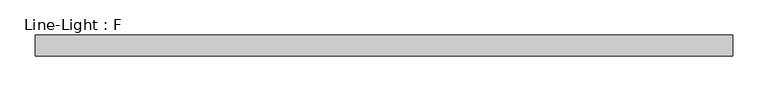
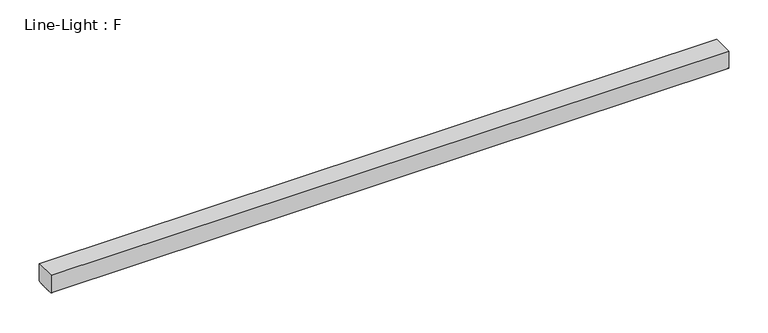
"""IFC4 building model written with IfcOpenShell, lengths in millimetres: light fixture geometry, Line-Light : F."""

from ifc_helpers import new_model, si_unit, point, frame, origin, place, context, project, spatial, ellipse_curve, trimmed, source, transform, mapped, element, save
from ifc_brep_helpers import plane_surface, extruded_surface, advanced_brep


def line_light_f_3fc1ab52(model_context):
    return source(origin(), model_context, "Body", "AdvancedBrep", [
        advanced_brep(
        [(497.0, 4.0, 0.0), (497.0, -26.0, 0.0), (497.0, -26.0, -26.5), (497.0, 4.0, -26.5), (-497.0, 4.0, 0.0), (-497.0, 4.0, -26.5), (-497.0, -26.0, -26.5), (-497.0, -26.0, 0.0)],
        [
            (0, 1),
            (1, 2),
            (2, 3, ellipse_curve(frame((497.0, -11.0, -26.5), z_axis=(1.0, 0.0, 0.0), x_axis=(0.0, -1.0, 0.0)), 15.0, 1.5)),
            (3, 0),
            (4, 5),
            (5, 6, ellipse_curve(frame((-497.0, -11.0, -26.5), z_axis=(-1.0, 0.0, 0.0), x_axis=(0.0, -1.0, 0.0)), 15.0, 1.5)),
            (6, 7),
            (7, 4),
            (0, 4),
            (7, 1),
            (6, 2),
            (5, 3),
        ],
        [
            plane_surface(frame((497.0, -26.0, 0.0), z_axis=(1.0, 0.0, 0.0), x_axis=(0.0, -1.0, 0.0))),
            plane_surface(frame((-497.0, -26.0, 0.0), z_axis=(-1.0, 0.0, 0.0), x_axis=(0.0, 1.0, 0.0))),
            plane_surface(frame((497.0, 4.0, 0.0), z_axis=(0.0, 0.0, 1.0), x_axis=(-1.0, 0.0, 0.0))),
            plane_surface(frame((497.0, -26.0, 0.0), z_axis=(0.0, -1.0, 0.0), x_axis=(-1.0, 0.0, 0.0))),
            extruded_surface(trimmed(ellipse_curve(frame((-1491.0, -11.0, -26.5), z_axis=(1.0, 0.0, 0.0), x_axis=(0.0, -1.0, 0.0)), 15.0, 1.5), [point((-1491.0, -26.0, -26.5))], [point((-1491.0, 4.0, -26.5))], True, "CARTESIAN"), (994.0, 0.0, 0.0), 994.0),
            plane_surface(frame((497.0, 4.0, -26.5), z_axis=(0.0, 1.0, 0.0), x_axis=(-1.0, 0.0, 0.0))),
        ],
        [
            (0, [[1, 2, 3, 4]]),
            (1, [[5, 6, 7, 8]]),
            (2, [[-1, 9, -8, 10]]),
            (3, [[-2, -10, -7, 11]]),
            (4, [[-3, -11, -6, 12]]),
            (5, [[-4, -12, -5, -9]]),
        ],
    ),
    ])


if __name__ == "__main__":
    model = new_model("IFC4")
    model_context = context("Model", 3, world=origin())
    ifc_project = project(units=[si_unit("LENGTHUNIT", "METRE", prefix="MILLI")], contexts=[model_context])
    site = spatial("IfcSite", under=ifc_project)
    building = spatial("IfcBuilding", under=site)
    placement = place(None, origin())
    line_light_f_shape = line_light_f_3fc1ab52(model_context)
    element("IfcLightFixture", 1, ObjectType="Line-Light : F", at=placement, inside=building, context=model_context, shape_type="MappedRepresentation", body=[
        mapped(line_light_f_shape, transform((0.0, 0.0, 0.0), x_axis=(1.0, 0.0, 0.0), y_axis=(0.0, 1.0, 0.0), z_axis=(0.0, 0.0, 1.0))),
    ])
    save(model, "model.ifc")
